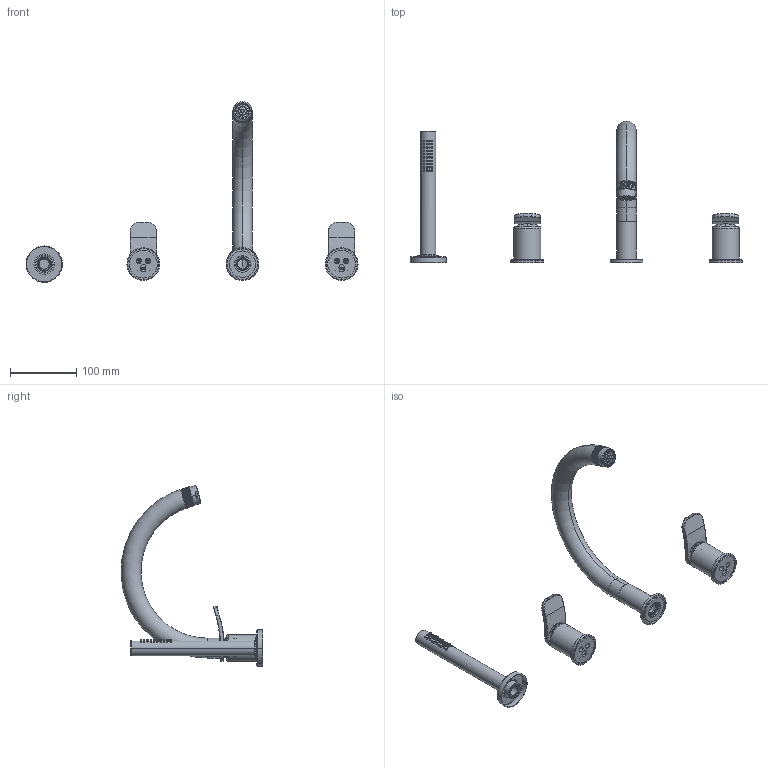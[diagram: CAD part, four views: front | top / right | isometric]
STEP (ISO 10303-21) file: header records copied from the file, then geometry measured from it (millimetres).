
FILE_DESCRIPTION((''),'2;1');
FILE_NAME('F3814N_ASM','2023-04-18T13:53:35',('samuelef'),(''),'CREO PARAMETRIC BY PTC INC, 2021184','CREO PARAMETRIC BY PTC INC, 2021184','');
FILE_SCHEMA(('CONFIG_CONTROL_DESIGN'));
Length unit declared in the file: millimetre
Products named in the file (17): 1885_JCZ_AF2; 1891CRO; 1887CRO_TL; A3814B_JCZ_AF1_ASM; 7264CRO_PORTAC_BO_VA_EXTRA_REV2_AF4; 6911; 4935CRO_ROMPIGETTO_M28X1; A3234B-JCZ_AF4_ASM; 1885_JCZ_AF3; A3814D_JCZ_AF1_ASM; 6995OT_AF1; TERMINALE_CONICO_1_2_AF13; 6462SP_AF11_ASM; 4565_SUPPORTO_DOCCIA_01_AF9; 4565_RODONE_CROMATO_AF9; 4565_AF9_ASM; F3814N_ASM
Assembly tree (18 placements, depth 3):
  F3814N_ASM
    A3814B_JCZ_AF1_ASM
      1885_JCZ_AF2
      1891CRO
      1887CRO_TL
    A3234B-JCZ_AF4_ASM
      7264CRO_PORTAC_BO_VA_EXTRA_REV2_AF4
      6911
      4935CRO_ROMPIGETTO_M28X1
    A3814D_JCZ_AF1_ASM
      1885_JCZ_AF3
      1891CRO
      1887CRO_TL
    6995OT_AF1
    6462SP_AF11_ASM
      TERMINALE_CONICO_1_2_AF13
    4565_AF9_ASM
      4565_SUPPORTO_DOCCIA_01_AF9
      4565_RODONE_CROMATO_AF9
Bounding box: 502.25 x 214.36 x 273.29 mm (x, y, z)
Volume: 272369.6 mm3; surface area: 174931.5 mm2
Topology: 13 solids, 13 shells, 1610 faces, 3930 edges, 2491 vertices
Faces by surface type: plane 582, cylinder 557, torus 181, bspline 122, extrusion 76, cone 74, sphere 18
Entity records: 50577 total; most frequent: CARTESIAN_POINT 24384, ORIENTED_EDGE 5460, DIRECTION 5128, EDGE_CURVE 2730, AXIS2_PLACEMENT_3D 1952, VERTEX_POINT 1738, EDGE_LOOP 1312, VECTOR 1224
